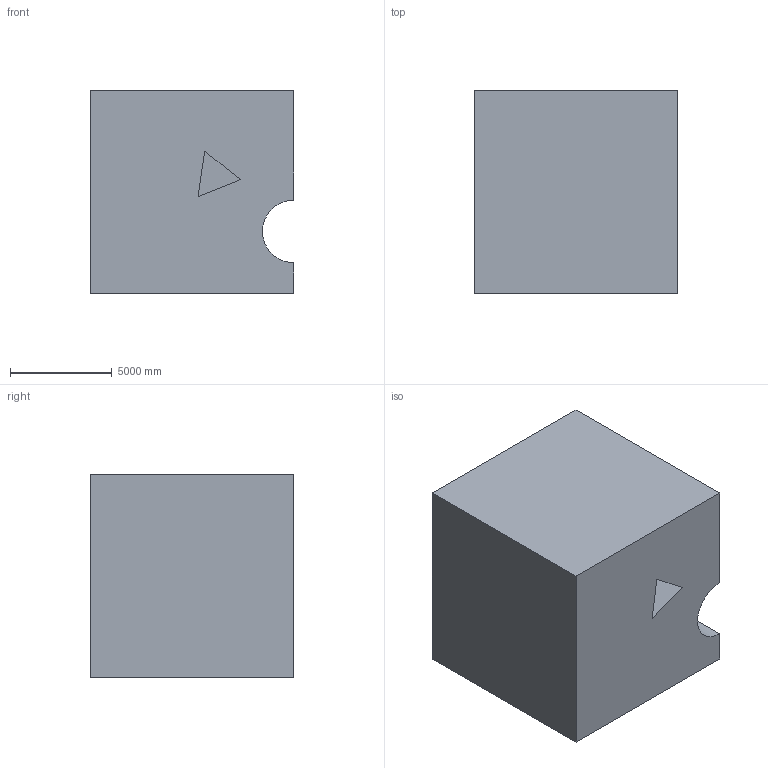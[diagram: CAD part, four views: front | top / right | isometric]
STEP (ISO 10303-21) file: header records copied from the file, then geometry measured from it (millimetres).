
FILE_DESCRIPTION (( 'STEP AP203' ), '1' );
FILE_NAME ('1130.STEP', '2022-08-18T12:52:44', ( 'user' ), ( '' ), 'SwSTEP 2.0', 'SolidWorks 2021', '' );
FILE_SCHEMA (( 'CONFIG_CONTROL_DESIGN' ));
Length unit declared in the file: centimetre
Products named in the file (1): 1130
Bounding box: 10000 x 10000 x 10000 mm (x, y, z)
Volume: 959499501576.3 mm3; surface area: 620545254.4 mm2
Topology: 1 solids, 1 shells, 12 faces, 27 edges, 18 vertices
Faces by surface type: plane 11, cylinder 1
Entity records: 410 total; most frequent: CARTESIAN_POINT 58, DIRECTION 55, ORIENTED_EDGE 54, EDGE_CURVE 27, LINE 25, VECTOR 25, VERTEX_POINT 18, AXIS2_PLACEMENT_3D 15
